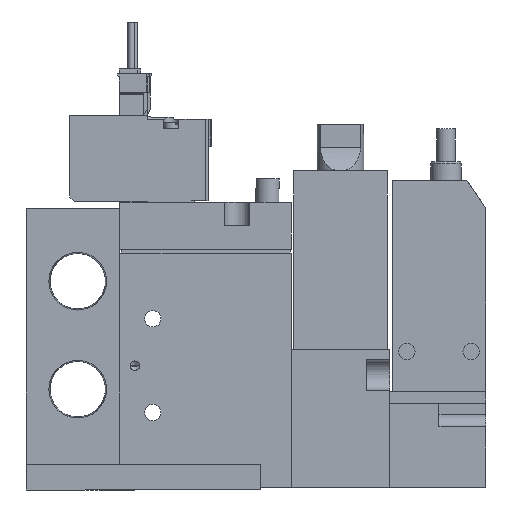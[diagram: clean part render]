
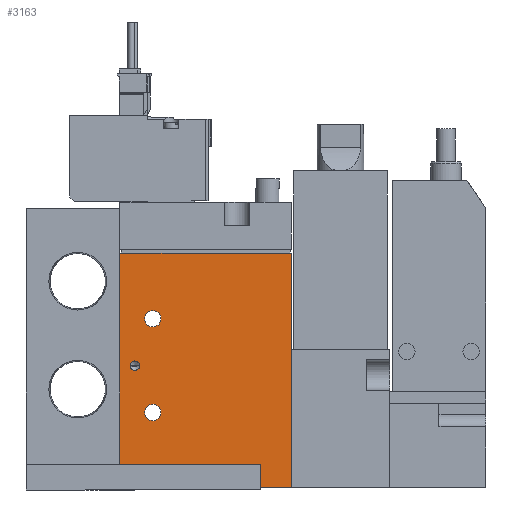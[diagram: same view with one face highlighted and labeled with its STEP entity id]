
A CAD part, left-side view. The second image highlights one B-rep face of the part: STEP entity #3163.
In plain terms, the highlighted planar face has unit normal (-1, 0, 0) as drawn and (1, 0, 0) by its records, which use the part's own axes.
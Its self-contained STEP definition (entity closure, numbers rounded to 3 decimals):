
#3163=ADVANCED_FACE('',(#4933,#4934,#4935,#4936),#4937,.F.);
#4933=FACE_BOUND('',#8585,.T.);
#4934=FACE_BOUND('',#8586,.T.);
#4935=FACE_BOUND('',#8587,.T.);
#4936=FACE_OUTER_BOUND('',#8588,.T.);
#4937=PLANE('',#8589);
#8585=EDGE_LOOP('',(#12759));
#8586=EDGE_LOOP('',(#12760));
#8587=EDGE_LOOP('',(#12761));
#8588=EDGE_LOOP('',(#12762,#12763,#12764,#12765));
#8589=AXIS2_PLACEMENT_3D('',#12766,#12767,#12768);
#12759=ORIENTED_EDGE('',*,*,#24763,.F.);
#12760=ORIENTED_EDGE('',*,*,#24764,.T.);
#12761=ORIENTED_EDGE('',*,*,#24765,.T.);
#12762=ORIENTED_EDGE('',*,*,#24766,.T.);
#12763=ORIENTED_EDGE('',*,*,#24767,.F.);
#12764=ORIENTED_EDGE('',*,*,#24768,.F.);
#12765=ORIENTED_EDGE('',*,*,#24769,.T.);
#12766=CARTESIAN_POINT('',(8.5,-19.444,50.0));
#12767=DIRECTION('',(-1.0,0.0,0.0));
#12768=DIRECTION('',(0.0,0.0,1.0));
#24763=EDGE_CURVE('',#28818,#28818,#28819,.T.);
#24764=EDGE_CURVE('',#28820,#28820,#28821,.T.);
#24765=EDGE_CURVE('',#28822,#28822,#28823,.T.);
#24766=EDGE_CURVE('',#28824,#28825,#28826,.T.);
#24767=EDGE_CURVE('',#28827,#28825,#28828,.T.);
#24768=EDGE_CURVE('',#28829,#28827,#28830,.T.);
#24769=EDGE_CURVE('',#28829,#28824,#28831,.T.);
#28818=VERTEX_POINT('',#35744);
#28819=CIRCLE('',#35745,1.0);
#28820=VERTEX_POINT('',#35746);
#28821=CIRCLE('',#35747,1.75);
#28822=VERTEX_POINT('',#35748);
#28823=CIRCLE('',#35749,1.75);
#28824=VERTEX_POINT('',#35750);
#28825=VERTEX_POINT('',#35751);
#28826=LINE('',#35752,#35753);
#28827=VERTEX_POINT('',#35754);
#28828=LINE('',#35755,#35756);
#28829=VERTEX_POINT('',#35757);
#28830=LINE('',#35758,#35759);
#28831=LINE('',#35760,#35761);
#35744=CARTESIAN_POINT('',(8.5,-17.244,26.0));
#35745=AXIS2_PLACEMENT_3D('',#45325,#45326,#45327);
#35746=CARTESIAN_POINT('',(8.5,-10.694,36.0));
#35747=AXIS2_PLACEMENT_3D('',#45328,#45329,#45330);
#35748=CARTESIAN_POINT('',(8.5,-10.694,16.0));
#35749=AXIS2_PLACEMENT_3D('',#45331,#45332,#45333);
#35750=CARTESIAN_POINT('',(8.5,-19.444,0.0));
#35751=CARTESIAN_POINT('',(8.5,17.056,0.0));
#35752=CARTESIAN_POINT('',(8.5,-19.444,0.0));
#35753=VECTOR('',#45334,1.0);
#35754=CARTESIAN_POINT('',(8.5,17.056,50.0));
#35755=CARTESIAN_POINT('',(8.5,17.056,50.0));
#35756=VECTOR('',#45335,1.0);
#35757=CARTESIAN_POINT('',(8.5,-19.444,50.0));
#35758=CARTESIAN_POINT('',(8.5,-19.444,50.0));
#35759=VECTOR('',#45336,1.0);
#35760=CARTESIAN_POINT('',(8.5,-19.444,50.0));
#35761=VECTOR('',#45337,1.0);
#45325=CARTESIAN_POINT('',(8.5,-16.244,26.0));
#45326=DIRECTION('',(1.0,0.,0.0));
#45327=DIRECTION('',(0.,-1.0,0.0));
#45328=CARTESIAN_POINT('',(8.5,-12.444,36.0));
#45329=DIRECTION('',(-1.0,0.0,0.0));
#45330=DIRECTION('',(0.0,1.0,0.0));
#45331=CARTESIAN_POINT('',(8.5,-12.444,16.0));
#45332=DIRECTION('',(-1.0,0.0,0.0));
#45333=DIRECTION('',(0.0,1.0,0.0));
#45334=DIRECTION('',(0.0,1.0,0.0));
#45335=DIRECTION('',(0.0,0.0,-1.0));
#45336=DIRECTION('',(0.0,1.0,0.0));
#45337=DIRECTION('',(0.0,0.0,-1.0));
